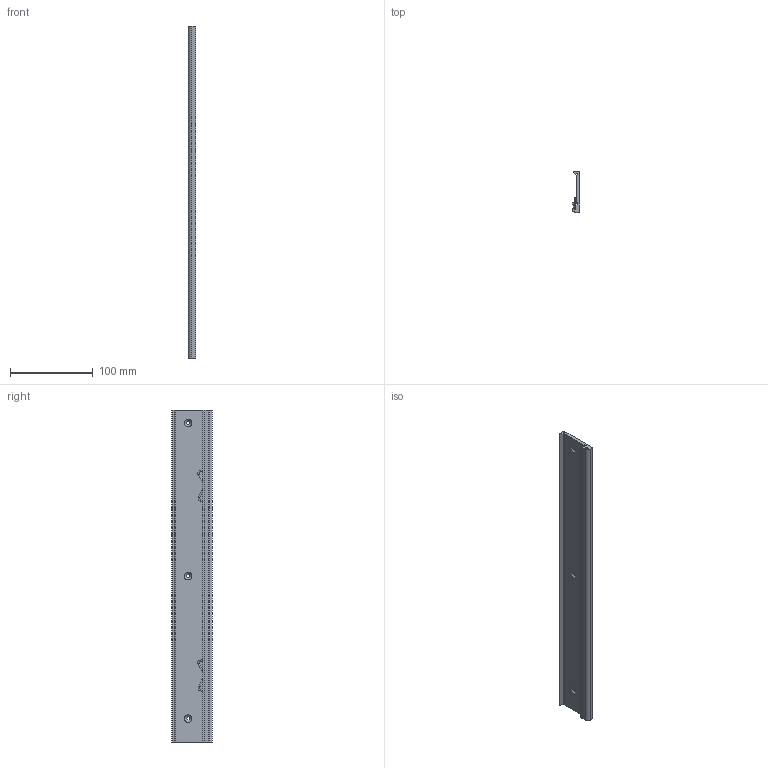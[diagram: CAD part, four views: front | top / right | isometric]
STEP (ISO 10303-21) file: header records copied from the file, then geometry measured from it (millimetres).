
FILE_DESCRIPTION((''),'2;1');
FILE_NAME('CU_DIN_CRIO-908X_CDAQ-913X','2014-11-06T',('jbuhisan'),(''),'PRO/ENGINEER BY PARAMETRIC TECHNOLOGY CORPORATION, 2014000','PRO/ENGINEER BY PARAMETRIC TECHNOLOGY CORPORATION, 2014000','');
FILE_SCHEMA(('CONFIG_CONTROL_DESIGN'));
Length unit declared in the file: inch
Products named in the file (1): CU_DIN_CRIO-908X_CDAQ-913X
Bounding box: 8.97 x 49.33 x 400.01 mm (x, y, z)
Volume: 85036.4 mm3; surface area: 59011.2 mm2
Topology: 1 solids, 1 shells, 84 faces, 202 edges, 122 vertices
Faces by surface type: cylinder 33, plane 25, torus 20, cone 6
Entity records: 2864 total; most frequent: CARTESIAN_POINT 832, DIRECTION 436, ORIENTED_EDGE 404, EDGE_CURVE 202, AXIS2_PLACEMENT_3D 170, VERTEX_POINT 122, VECTOR 96, LINE 96
